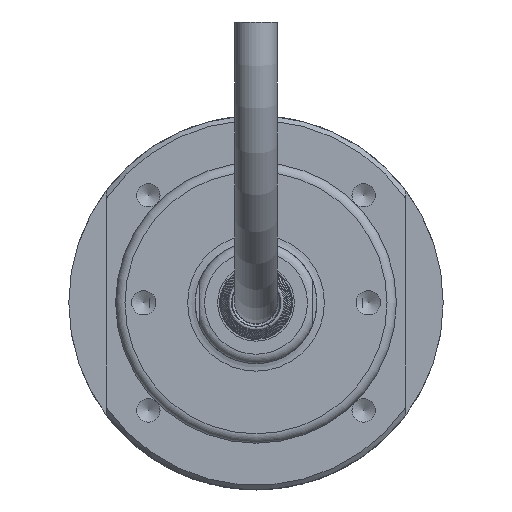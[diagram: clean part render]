
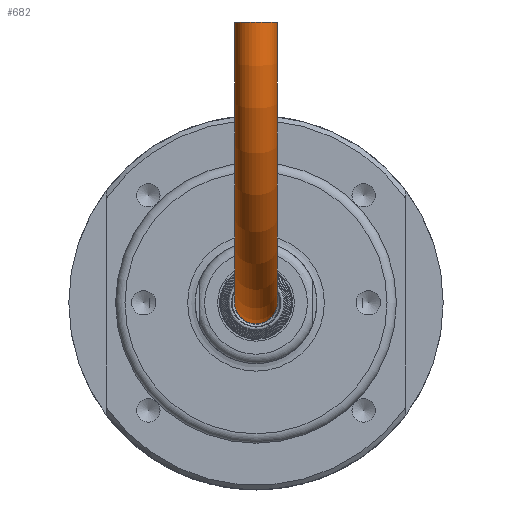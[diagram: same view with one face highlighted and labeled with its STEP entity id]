
A CAD part, front view. The second image highlights one B-rep face of the part: STEP entity #682.
In plain terms, the highlighted toroidal (fillet/blend) face has major radius 30 mm and minor radius 2.25 mm.
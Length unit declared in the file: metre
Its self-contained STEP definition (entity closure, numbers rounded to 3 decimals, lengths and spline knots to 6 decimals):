
#682 = ADVANCED_FACE( '', ( #901, #902 ), #903, .T. );
#901 = FACE_OUTER_BOUND( '', #9449, .T. );
#902 = FACE_OUTER_BOUND( '', #9450, .T. );
#903 = TOROIDAL_SURFACE( '', #9451, 0.03, 0.00225 );
#9449 = EDGE_LOOP( '', ( #9892 ) );
#9450 = EDGE_LOOP( '', ( #9893 ) );
#9451 = AXIS2_PLACEMENT_3D( '', #9894, #9895, #9896 );
#9892 = ORIENTED_EDGE( '', *, *, #10140, .T. );
#9893 = ORIENTED_EDGE( '', *, *, #10141, .F. );
#9894 = CARTESIAN_POINT( '', ( 0., -0.043, 0.03 ) );
#9895 = DIRECTION( '', ( -1., 0., 0. ) );
#9896 = DIRECTION( '', ( 0., 1., 0. ) );
#10140 = EDGE_CURVE( '', #10603, #10603, #10604, .T. );
#10141 = EDGE_CURVE( '', #10605, #10605, #10606, .T. );
#10603 = VERTEX_POINT( '', #15498 );
#10604 = CIRCLE( '', #15499, 0.00225 );
#10605 = VERTEX_POINT( '', #15500 );
#10606 = CIRCLE( '', #15501, 0.00225 );
#15498 = CARTESIAN_POINT( '', ( 0.00225, -0.043, 0. ) );
#15499 = AXIS2_PLACEMENT_3D( '', #15955, #15956, #15957 );
#15500 = CARTESIAN_POINT( '', ( 0., -0.07075, 0.03 ) );
#15501 = AXIS2_PLACEMENT_3D( '', #15958, #15959, #15960 );
#15955 = CARTESIAN_POINT( '', ( 0., -0.043, 0. ) );
#15956 = DIRECTION( '', ( 0., -1., 0. ) );
#15957 = DIRECTION( '', ( 1., 0., 0. ) );
#15958 = CARTESIAN_POINT( '', ( 0., -0.073, 0.03 ) );
#15959 = DIRECTION( '', ( 0., 0., 1. ) );
#15960 = DIRECTION( '', ( 0., 1., 0. ) );
